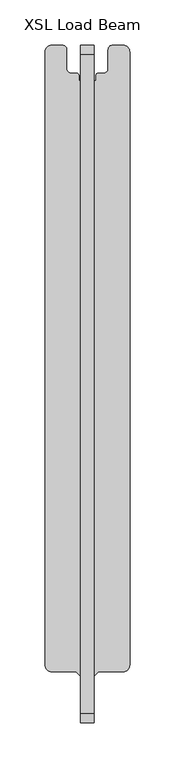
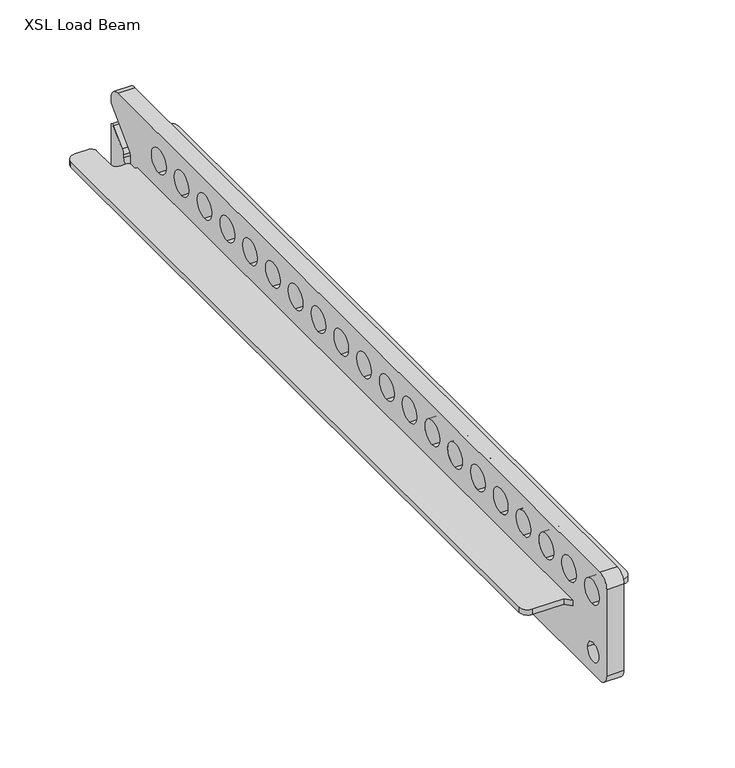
"""IFC4 building model written with IfcOpenShell, lengths in millimetres: proxy geometry, d&b SL-Series XSL Load Beam : XSL Load Beam."""

from ifc_helpers import new_model, si_unit, point, frame, frame_2d, origin, place, context, project, spatial, polyline, circle_curve, trimmed, segment, composite_curve, outline, extrude, source, transform, mapped, element, save


def xsl_load_beam_7bbdde43(model_context):
    return source(origin(), model_context, "Body", "SweptSolid", [
        extrude(outline(composite_curve([segment(trimmed(circle_curve(frame_2d((39.3, 30.1954278)), 7.7), [point((47.0, 30.1954278))], [point((39.3, 22.4954278))], False, "CARTESIAN"), True, "CONTINUOUS"), segment(polyline([(39.3, 22.4954278), (12.5, 22.4954278), (7.5, 17.4954278), (7.5, 676.7454278), (9.5, 676.7454278), (9.5, 682.4954278)]), True, "CONTINUOUS"), segment(trimmed(circle_curve(frame_2d((12.0, 682.4954278)), 2.5), [point((9.5, 682.4954278))], [point((12.0, 684.9954278))], False, "CARTESIAN"), True, "CONTINUOUS"), segment(polyline([(12.0, 684.9954278), (18.0, 684.9954278)]), True, "CONTINUOUS"), segment(trimmed(circle_curve(frame_2d((18.0, 689.9954278)), 5.0), [point((18.0, 684.9954278))], [point((23.0, 689.9954278))], True, "CARTESIAN"), True, "CONTINUOUS"), segment(polyline([(23.0, 689.9954278), (23.0, 710.9954278)]), True, "CONTINUOUS"), segment(trimmed(circle_curve(frame_2d((28.0, 710.9954278)), 5.0), [point((23.0, 710.9954278))], [point((28.0, 715.9954278))], False, "CARTESIAN"), True, "CONTINUOUS"), segment(polyline([(28.0, 715.9954278), (39.5, 715.9954278)]), True, "CONTINUOUS"), segment(trimmed(circle_curve(frame_2d((39.5, 708.4954278)), 7.5), [point((39.5, 715.9954278))], [point((47.0, 708.4954278))], False, "CARTESIAN"), True, "CONTINUOUS"), segment(polyline([(47.0, 708.4954278), (47.0, 30.1954278)]), True, "CONTINUOUS")], self_intersect=False)), frame((0.0, 0.0, 119.5), z_axis=(0.0, 0.0, 1.0), x_axis=(1.0, 0.0, 0.0)), (0.0, 0.0, 1.0), 5.0),
        extrude(outline(composite_curve([segment(trimmed(circle_curve(frame_2d((-39.3, 30.1954278)), 7.7), [point((-39.3, 22.4954278))], [point((-47.0, 30.1954278))], False, "CARTESIAN"), True, "CONTINUOUS"), segment(polyline([(-47.0, 30.1954278), (-47.0, 708.4954278)]), True, "CONTINUOUS"), segment(trimmed(circle_curve(frame_2d((-39.5, 708.4954278)), 7.5), [point((-47.0, 708.4954278))], [point((-39.5, 715.9954278))], False, "CARTESIAN"), True, "CONTINUOUS"), segment(polyline([(-39.5, 715.9954278), (-28.0, 715.9954278)]), True, "CONTINUOUS"), segment(trimmed(circle_curve(frame_2d((-28.0, 710.9954278)), 5.0), [point((-28.0, 715.9954278))], [point((-23.0, 710.9954278))], False, "CARTESIAN"), True, "CONTINUOUS"), segment(polyline([(-23.0, 710.9954278), (-23.0, 689.9954278)]), True, "CONTINUOUS"), segment(trimmed(circle_curve(frame_2d((-18.0, 689.9954278)), 5.0), [point((-23.0, 689.9954278))], [point((-18.0, 684.9954278))], True, "CARTESIAN"), True, "CONTINUOUS"), segment(polyline([(-18.0, 684.9954278), (-12.0, 684.9954278)]), True, "CONTINUOUS"), segment(trimmed(circle_curve(frame_2d((-12.0, 682.4954278)), 2.5), [point((-12.0, 684.9954278))], [point((-9.5, 682.4954278))], False, "CARTESIAN"), True, "CONTINUOUS"), segment(polyline([(-9.5, 682.4954278), (-9.5, 676.7454278), (-7.5, 676.7454278), (-7.5, 17.4954278), (-12.5, 22.4954278), (-39.3, 22.4954278)]), True, "CONTINUOUS")], self_intersect=False)), frame((0.0, 0.0, 119.5), z_axis=(0.0, 0.0, 1.0), x_axis=(1.0, 0.0, 0.0)), (0.0, 0.0, 1.0), 5.0),
        extrude(outline(composite_curve([segment(polyline([(-24.0045722, 175.5), (705.9954278, 175.5)]), True, "CONTINUOUS"), segment(trimmed(circle_curve(frame_2d((705.9954278, 165.5)), 10.0), [point((705.9954278, 175.5))], [point((715.9954278, 165.5))], False, "CARTESIAN"), True, "CONTINUOUS"), segment(polyline([(715.9954278, 165.5), (715.9954278, 160.5563492), (688.1705221, 132.7314435)]), True, "CONTINUOUS"), segment(trimmed(circle_curve(frame_2d((692.2145574, 128.6874082)), 5.7191296), [point((688.1705221, 132.7314435))], [point((686.4954278, 128.6874082))], True, "CARTESIAN"), True, "CONTINUOUS"), segment(polyline([(686.4954278, 128.6874082), (686.4954278, 121.0)]), True, "CONTINUOUS"), segment(trimmed(circle_curve(frame_2d((691.9954278, 121.0)), 5.5), [point((686.4954278, 121.0))], [point((697.4954278, 121.0))], True, "CARTESIAN"), True, "CONTINUOUS"), segment(polyline([(697.4954278, 121.0), (697.4954278, 124.0326344)]), True, "CONTINUOUS"), segment(trimmed(circle_curve(frame_2d((703.4521754, 124.0326344)), 5.9567475), [point((697.4954278, 124.0326344))], [point((699.2401188, 128.244691))], False, "CARTESIAN"), True, "CONTINUOUS"), segment(polyline([(699.2401188, 128.244691), (712.5889654, 141.5935376)]), True, "CONTINUOUS"), segment(trimmed(circle_curve(frame_2d((713.9999684, 140.1825347)), 1.9954595), [point((712.5889654, 141.5935376))], [point((715.9954278, 140.1825347))], False, "CARTESIAN"), True, "CONTINUOUS"), segment(polyline([(715.9954278, 140.1825347), (715.9954278, 85.5)]), True, "CONTINUOUS"), segment(trimmed(circle_curve(frame_2d((705.9954278, 85.5)), 10.0), [point((715.9954278, 85.5))], [point((705.9954278, 75.5))], False, "CARTESIAN"), True, "CONTINUOUS"), segment(polyline([(705.9954278, 75.5), (-24.0045722, 75.5)]), True, "CONTINUOUS"), segment(trimmed(circle_curve(frame_2d((-24.0045722, 85.5)), 10.0), [point((-24.0045722, 75.5))], [point((-34.0045722, 85.5))], False, "CARTESIAN"), True, "CONTINUOUS"), segment(polyline([(-34.0045722, 85.5), (-34.0045722, 165.5)]), True, "CONTINUOUS"), segment(trimmed(circle_curve(frame_2d((-24.0045722, 165.5)), 10.0), [point((-34.0045722, 165.5))], [point((-24.0045722, 175.5))], False, "CARTESIAN"), True, "CONTINUOUS")], self_intersect=False), holes=[composite_curve([segment(trimmed(circle_curve(frame_2d((-12.0045722, 150.5)), 11.0), [point((-12.0045722, 139.5))], [point((-12.0045722, 161.5))], True, "CARTESIAN"), True, "CONTINUOUS"), segment(trimmed(circle_curve(frame_2d((-12.0045722, 150.5)), 11.0), [point((-12.0045722, 161.5))], [point((-12.0045722, 139.5))], True, "CARTESIAN"), True, "CONTINUOUS")], self_intersect=False), composite_curve([segment(trimmed(circle_curve(frame_2d((-13.7545722, 95.5)), 8.5), [point((-22.2545722, 95.5))], [point((-5.2545722, 95.5))], True, "CARTESIAN"), True, "CONTINUOUS"), segment(trimmed(circle_curve(frame_2d((-13.7545722, 95.5)), 8.5), [point((-5.2545722, 95.5))], [point((-22.2545722, 95.5))], True, "CARTESIAN"), True, "CONTINUOUS")], self_intersect=False), composite_curve([segment(trimmed(circle_curve(frame_2d((166.2454278, 95.5)), 8.5), [point((157.7454278, 95.5))], [point((174.7454278, 95.5))], True, "CARTESIAN"), True, "CONTINUOUS"), segment(trimmed(circle_curve(frame_2d((166.2454278, 95.5)), 8.5), [point((174.7454278, 95.5))], [point((157.7454278, 95.5))], True, "CARTESIAN"), True, "CONTINUOUS")], self_intersect=False), composite_curve([segment(trimmed(circle_curve(frame_2d((417.7454278, 95.5)), 8.5), [point((409.2454278, 95.5))], [point((426.2454278, 95.5))], True, "CARTESIAN"), True, "CONTINUOUS"), segment(trimmed(circle_curve(frame_2d((417.7454278, 95.5)), 8.5), [point((426.2454278, 95.5))], [point((409.2454278, 95.5))], True, "CARTESIAN"), True, "CONTINUOUS")], self_intersect=False), composite_curve([segment(trimmed(circle_curve(frame_2d((597.7454278, 95.5)), 8.5), [point((589.2454278, 95.5))], [point((606.2454278, 95.5))], True, "CARTESIAN"), True, "CONTINUOUS"), segment(trimmed(circle_curve(frame_2d((597.7454278, 95.5)), 8.5), [point((606.2454278, 95.5))], [point((589.2454278, 95.5))], True, "CARTESIAN"), True, "CONTINUOUS")], self_intersect=False), composite_curve([segment(trimmed(circle_curve(frame_2d((561.4954278, 95.5)), 11.0), [point((550.4954278, 95.5))], [point((572.4954278, 95.5))], True, "CARTESIAN"), True, "CONTINUOUS"), segment(trimmed(circle_curve(frame_2d((561.4954278, 95.5)), 11.0), [point((572.4954278, 95.5))], [point((550.4954278, 95.5))], True, "CARTESIAN"), True, "CONTINUOUS")], self_intersect=False), composite_curve([segment(trimmed(circle_curve(frame_2d((644.9954278, 95.5)), 5.5), [point((639.4954278, 95.5))], [point((650.4954278, 95.5))], True, "CARTESIAN"), True, "CONTINUOUS"), segment(trimmed(circle_curve(frame_2d((644.9954278, 95.5)), 5.5), [point((650.4954278, 95.5))], [point((639.4954278, 95.5))], True, "CARTESIAN"), True, "CONTINUOUS")], self_intersect=False), composite_curve([segment(trimmed(circle_curve(frame_2d((22.7454278, 150.5)), 11.0), [point((22.7454278, 139.5))], [point((22.7454278, 161.5))], True, "CARTESIAN"), True, "CONTINUOUS"), segment(trimmed(circle_curve(frame_2d((22.7454278, 150.5)), 11.0), [point((22.7454278, 161.5))], [point((22.7454278, 139.5))], True, "CARTESIAN"), True, "CONTINUOUS")], self_intersect=False), composite_curve([segment(trimmed(circle_curve(frame_2d((57.2454278, 150.5)), 11.0), [point((57.2454278, 139.5))], [point((57.2454278, 161.5))], True, "CARTESIAN"), True, "CONTINUOUS"), segment(trimmed(circle_curve(frame_2d((57.2454278, 150.5)), 11.0), [point((57.2454278, 161.5))], [point((57.2454278, 139.5))], True, "CARTESIAN"), True, "CONTINUOUS")], self_intersect=False), composite_curve([segment(trimmed(circle_curve(frame_2d((91.7454278, 150.5)), 11.0), [point((91.7454278, 139.5))], [point((91.7454278, 161.5))], True, "CARTESIAN"), True, "CONTINUOUS"), segment(trimmed(circle_curve(frame_2d((91.7454278, 150.5)), 11.0), [point((91.7454278, 161.5))], [point((91.7454278, 139.5))], True, "CARTESIAN"), True, "CONTINUOUS")], self_intersect=False), composite_curve([segment(trimmed(circle_curve(frame_2d((126.2454278, 150.5)), 11.0), [point((126.2454278, 139.5))], [point((126.2454278, 161.5))], True, "CARTESIAN"), True, "CONTINUOUS"), segment(trimmed(circle_curve(frame_2d((126.2454278, 150.5)), 11.0), [point((126.2454278, 161.5))], [point((126.2454278, 139.5))], True, "CARTESIAN"), True, "CONTINUOUS")], self_intersect=False), composite_curve([segment(trimmed(circle_curve(frame_2d((160.7454278, 150.5)), 11.0), [point((160.7454278, 139.5))], [point((160.7454278, 161.5))], True, "CARTESIAN"), True, "CONTINUOUS"), segment(trimmed(circle_curve(frame_2d((160.7454278, 150.5)), 11.0), [point((160.7454278, 161.5))], [point((160.7454278, 139.5))], True, "CARTESIAN"), True, "CONTINUOUS")], self_intersect=False), composite_curve([segment(trimmed(circle_curve(frame_2d((195.2454278, 150.5)), 11.0), [point((195.2454278, 139.5))], [point((195.2454278, 161.5))], True, "CARTESIAN"), True, "CONTINUOUS"), segment(trimmed(circle_curve(frame_2d((195.2454278, 150.5)), 11.0), [point((195.2454278, 161.5))], [point((195.2454278, 139.5))], True, "CARTESIAN"), True, "CONTINUOUS")], self_intersect=False), composite_curve([segment(trimmed(circle_curve(frame_2d((229.7454278, 150.5)), 11.0), [point((229.7454278, 139.5))], [point((229.7454278, 161.5))], True, "CARTESIAN"), True, "CONTINUOUS"), segment(trimmed(circle_curve(frame_2d((229.7454278, 150.5)), 11.0), [point((229.7454278, 161.5))], [point((229.7454278, 139.5))], True, "CARTESIAN"), True, "CONTINUOUS")], self_intersect=False), composite_curve([segment(trimmed(circle_curve(frame_2d((264.2454278, 150.5)), 11.0), [point((264.2454278, 139.5))], [point((264.2454278, 161.5))], True, "CARTESIAN"), True, "CONTINUOUS"), segment(trimmed(circle_curve(frame_2d((264.2454278, 150.5)), 11.0), [point((264.2454278, 161.5))], [point((264.2454278, 139.5))], True, "CARTESIAN"), True, "CONTINUOUS")], self_intersect=False), composite_curve([segment(trimmed(circle_curve(frame_2d((298.7454278, 150.5)), 11.0), [point((298.7454278, 139.5))], [point((298.7454278, 161.5))], True, "CARTESIAN"), True, "CONTINUOUS"), segment(trimmed(circle_curve(frame_2d((298.7454278, 150.5)), 11.0), [point((298.7454278, 161.5))], [point((298.7454278, 139.5))], True, "CARTESIAN"), True, "CONTINUOUS")], self_intersect=False), composite_curve([segment(trimmed(circle_curve(frame_2d((609.4954278, 150.5)), 11.0), [point((609.4954278, 139.5))], [point((609.4954278, 161.5))], True, "CARTESIAN"), True, "CONTINUOUS"), segment(trimmed(circle_curve(frame_2d((609.4954278, 150.5)), 11.0), [point((609.4954278, 161.5))], [point((609.4954278, 139.5))], True, "CARTESIAN"), True, "CONTINUOUS")], self_intersect=False), composite_curve([segment(trimmed(circle_curve(frame_2d((574.7454278, 150.5)), 11.0), [point((574.7454278, 139.5))], [point((574.7454278, 161.5))], True, "CARTESIAN"), True, "CONTINUOUS"), segment(trimmed(circle_curve(frame_2d((574.7454278, 150.5)), 11.0), [point((574.7454278, 161.5))], [point((574.7454278, 139.5))], True, "CARTESIAN"), True, "CONTINUOUS")], self_intersect=False), composite_curve([segment(trimmed(circle_curve(frame_2d((540.2454278, 150.5)), 11.0), [point((540.2454278, 139.5))], [point((540.2454278, 161.5))], True, "CARTESIAN"), True, "CONTINUOUS"), segment(trimmed(circle_curve(frame_2d((540.2454278, 150.5)), 11.0), [point((540.2454278, 161.5))], [point((540.2454278, 139.5))], True, "CARTESIAN"), True, "CONTINUOUS")], self_intersect=False), composite_curve([segment(trimmed(circle_curve(frame_2d((505.7454278, 150.5)), 11.0), [point((505.7454278, 139.5))], [point((505.7454278, 161.5))], True, "CARTESIAN"), True, "CONTINUOUS"), segment(trimmed(circle_curve(frame_2d((505.7454278, 150.5)), 11.0), [point((505.7454278, 161.5))], [point((505.7454278, 139.5))], True, "CARTESIAN"), True, "CONTINUOUS")], self_intersect=False), composite_curve([segment(trimmed(circle_curve(frame_2d((471.2454278, 150.5)), 11.0), [point((471.2454278, 139.5))], [point((471.2454278, 161.5))], True, "CARTESIAN"), True, "CONTINUOUS"), segment(trimmed(circle_curve(frame_2d((471.2454278, 150.5)), 11.0), [point((471.2454278, 161.5))], [point((471.2454278, 139.5))], True, "CARTESIAN"), True, "CONTINUOUS")], self_intersect=False), composite_curve([segment(trimmed(circle_curve(frame_2d((436.7454278, 150.5)), 11.0), [point((436.7454278, 139.5))], [point((436.7454278, 161.5))], True, "CARTESIAN"), True, "CONTINUOUS"), segment(trimmed(circle_curve(frame_2d((436.7454278, 150.5)), 11.0), [point((436.7454278, 161.5))], [point((436.7454278, 139.5))], True, "CARTESIAN"), True, "CONTINUOUS")], self_intersect=False), composite_curve([segment(trimmed(circle_curve(frame_2d((402.2454278, 150.5)), 11.0), [point((402.2454278, 139.5))], [point((402.2454278, 161.5))], True, "CARTESIAN"), True, "CONTINUOUS"), segment(trimmed(circle_curve(frame_2d((402.2454278, 150.5)), 11.0), [point((402.2454278, 161.5))], [point((402.2454278, 139.5))], True, "CARTESIAN"), True, "CONTINUOUS")], self_intersect=False), composite_curve([segment(trimmed(circle_curve(frame_2d((367.7454278, 150.5)), 11.0), [point((367.7454278, 139.5))], [point((367.7454278, 161.5))], True, "CARTESIAN"), True, "CONTINUOUS"), segment(trimmed(circle_curve(frame_2d((367.7454278, 150.5)), 11.0), [point((367.7454278, 161.5))], [point((367.7454278, 139.5))], True, "CARTESIAN"), True, "CONTINUOUS")], self_intersect=False), composite_curve([segment(trimmed(circle_curve(frame_2d((333.2454278, 150.5)), 11.0), [point((333.2454278, 139.5))], [point((333.2454278, 161.5))], True, "CARTESIAN"), True, "CONTINUOUS"), segment(trimmed(circle_curve(frame_2d((333.2454278, 150.5)), 11.0), [point((333.2454278, 161.5))], [point((333.2454278, 139.5))], True, "CARTESIAN"), True, "CONTINUOUS")], self_intersect=False), composite_curve([segment(trimmed(circle_curve(frame_2d((643.9954278, 150.5)), 11.0), [point((643.9954278, 139.5))], [point((643.9954278, 161.5))], True, "CARTESIAN"), True, "CONTINUOUS"), segment(trimmed(circle_curve(frame_2d((643.9954278, 150.5)), 11.0), [point((643.9954278, 161.5))], [point((643.9954278, 139.5))], True, "CARTESIAN"), True, "CONTINUOUS")], self_intersect=False)]), frame((-7.5, 0.0, 0.0), z_axis=(1.0, 0.0, 0.0), x_axis=(0.0, 1.0, 0.0)), (0.0, 0.0, 1.0), 15.0),
    ])


if __name__ == "__main__":
    model = new_model("IFC4")
    model_context = context("Model", 3, world=origin())
    ifc_project = project(units=[si_unit("LENGTHUNIT", "METRE", prefix="MILLI")], contexts=[model_context])
    site = spatial("IfcSite", under=ifc_project)
    building = spatial("IfcBuilding", under=site)
    placement = place(None, origin())
    xsl_load_beam_shape = xsl_load_beam_7bbdde43(model_context)
    element("IfcBuildingElementProxy", 1, Name="d&b SL-Series XSL Load Beam : XSL Load Beam", ObjectType="d&b SL-Series XSL Load Beam : XSL Load Beam", at=placement, inside=building, context=model_context, shape_type="MappedRepresentation", body=[
        mapped(xsl_load_beam_shape, transform((0.0, 0.0, 0.0), x_axis=(1.0, 0.0, 0.0), y_axis=(0.0, 1.0, 0.0), z_axis=(0.0, 0.0, 1.0))),
    ])
    save(model, "model.ifc")
